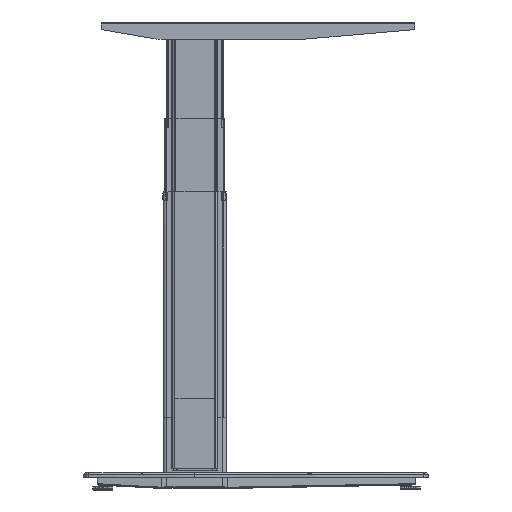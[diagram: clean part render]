
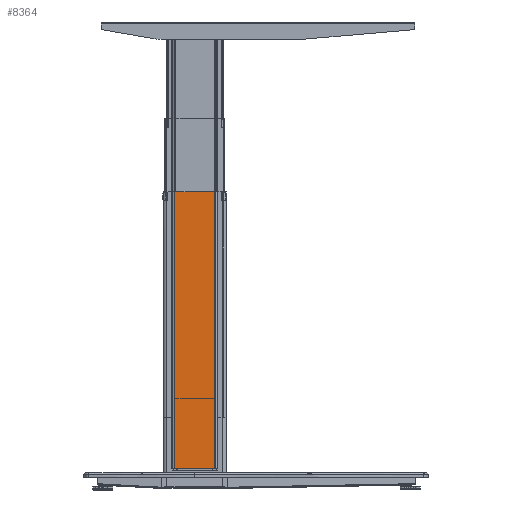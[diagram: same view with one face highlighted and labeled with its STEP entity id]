
A CAD part, left-side view. The second image highlights one B-rep face of the part: STEP entity #8364.
In plain terms, the highlighted planar face has unit normal (-1, 0, 0) as drawn and (0, -1, 0) by its records, which use the part's own axes.
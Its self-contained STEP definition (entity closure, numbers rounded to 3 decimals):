
#407 = CARTESIAN_POINT ( 'NONE',  ( 39.49, 1.75, 37. ) ) ;
#3122 = ORIENTED_EDGE ( 'NONE', *, *, #19832, .F. ) ;
#3130 = VERTEX_POINT ( 'NONE', #56077 ) ;
#7987 = LINE ( 'NONE', #69882, #73053 ) ;
#8364 = ADVANCED_FACE ( 'NONE', ( #32541 ), #96576, .T. ) ;
#8934 = LINE ( 'NONE', #87721, #31104 ) ;
#13144 = CARTESIAN_POINT ( 'NONE',  ( -39.49, 1.75, 37. ) ) ;
#13481 = AXIS2_PLACEMENT_3D ( 'NONE', #104571, #37981, #71460 ) ;
#16179 = CARTESIAN_POINT ( 'NONE',  ( -39.49, 1.75, 585. ) ) ;
#16803 = EDGE_CURVE ( 'NONE', #40303, #31669, #62031, .T. ) ;
#18076 = DIRECTION ( 'NONE',  ( -1., 0., 0. ) ) ;
#19832 = EDGE_CURVE ( 'NONE', #31669, #33686, #38955, .T. ) ;
#31104 = VECTOR ( 'NONE', #37865, 1000. ) ;
#31669 = VERTEX_POINT ( 'NONE', #13144 ) ;
#32541 = FACE_OUTER_BOUND ( 'NONE', #35335, .T. ) ;
#33686 = VERTEX_POINT ( 'NONE', #16179 ) ;
#35335 = EDGE_LOOP ( 'NONE', ( #66819, #3122, #42740, #73022 ) ) ;
#37865 = DIRECTION ( 'NONE',  ( -1., 0., 0. ) ) ;
#37981 = DIRECTION ( 'NONE',  ( 0., -1., 0. ) ) ;
#38955 = LINE ( 'NONE', #51300, #97560 ) ;
#40303 = VERTEX_POINT ( 'NONE', #407 ) ;
#42727 = CARTESIAN_POINT ( 'NONE',  ( -40., 1.75, 37. ) ) ;
#42740 = ORIENTED_EDGE ( 'NONE', *, *, #16803, .F. ) ;
#45061 = DIRECTION ( 'NONE',  ( 0., 0., -1. ) ) ;
#47170 = EDGE_CURVE ( 'NONE', #3130, #40303, #7987, .T. ) ;
#51300 = CARTESIAN_POINT ( 'NONE',  ( -39.49, 1.75, -88.017 ) ) ;
#56077 = CARTESIAN_POINT ( 'NONE',  ( 39.49, 1.75, 585. ) ) ;
#62031 = LINE ( 'NONE', #42727, #99706 ) ;
#63074 = EDGE_CURVE ( 'NONE', #3130, #33686, #8934, .T. ) ;
#66819 = ORIENTED_EDGE ( 'NONE', *, *, #63074, .T. ) ;
#69882 = CARTESIAN_POINT ( 'NONE',  ( 39.49, 1.75, -88.017 ) ) ;
#71460 = DIRECTION ( 'NONE',  ( 0., 0., 1. ) ) ;
#73022 = ORIENTED_EDGE ( 'NONE', *, *, #47170, .F. ) ;
#73053 = VECTOR ( 'NONE', #45061, 1000. ) ;
#87721 = CARTESIAN_POINT ( 'NONE',  ( -40., 1.75, 585. ) ) ;
#91737 = DIRECTION ( 'NONE',  ( 0., 0., 1. ) ) ;
#96576 = PLANE ( 'NONE',  #13481 ) ;
#97560 = VECTOR ( 'NONE', #91737, 1000. ) ;
#99706 = VECTOR ( 'NONE', #18076, 1000. ) ;
#104571 = CARTESIAN_POINT ( 'NONE',  ( -40., 1.75, -88.017 ) ) ;
